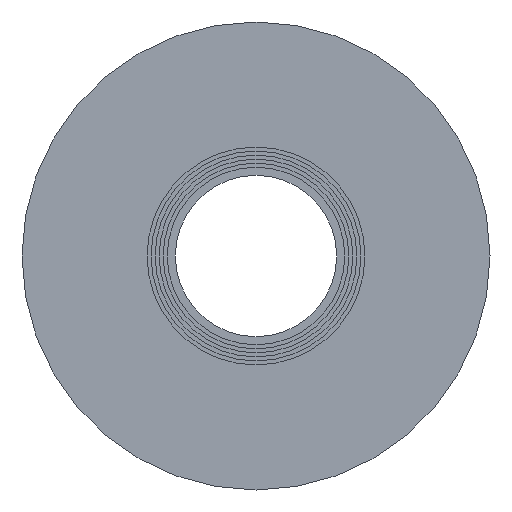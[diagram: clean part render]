
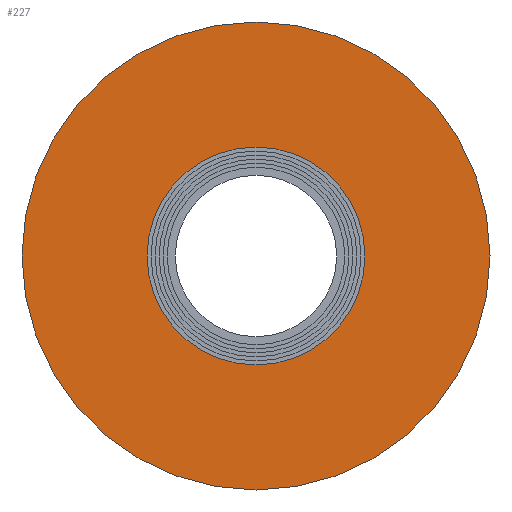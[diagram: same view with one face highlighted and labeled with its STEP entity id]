
A CAD part, left-side view. The second image highlights one B-rep face of the part: STEP entity #227.
In plain terms, the highlighted planar face has unit normal (-1, 0, 0).
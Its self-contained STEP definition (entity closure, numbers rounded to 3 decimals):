
#19=PLANE('',#265);
#45=FACE_BOUND('',#98,.T.);
#65=FACE_OUTER_BOUND('',#97,.T.);
#97=EDGE_LOOP('',(#197));
#98=EDGE_LOOP('',(#198));
#128=CIRCLE('',#263,13.5);
#129=CIRCLE('',#266,29.);
#148=VERTEX_POINT('',#401);
#149=VERTEX_POINT('',#405);
#168=EDGE_CURVE('',#148,#148,#128,.T.);
#169=EDGE_CURVE('',#149,#149,#129,.T.);
#197=ORIENTED_EDGE('',*,*,#169,.F.);
#198=ORIENTED_EDGE('',*,*,#168,.T.);
#227=ADVANCED_FACE('',(#65,#45),#19,.T.);
#263=AXIS2_PLACEMENT_3D('',#402,#331,#332);
#265=AXIS2_PLACEMENT_3D('',#404,#335,#336);
#266=AXIS2_PLACEMENT_3D('',#406,#337,#338);
#331=DIRECTION('center_axis',(1.,0.,0.));
#332=DIRECTION('ref_axis',(0.,0.,-1.));
#335=DIRECTION('center_axis',(-1.,0.,0.));
#336=DIRECTION('ref_axis',(0.,0.,1.));
#337=DIRECTION('center_axis',(1.,0.,0.));
#338=DIRECTION('ref_axis',(0.,0.,-1.));
#401=CARTESIAN_POINT('',(-85.,0.,13.5));
#402=CARTESIAN_POINT('Origin',(-85.,0.,0.));
#404=CARTESIAN_POINT('Origin',(-85.,29.,0.));
#405=CARTESIAN_POINT('',(-85.,29.,0.));
#406=CARTESIAN_POINT('Origin',(-85.,0.,0.));
